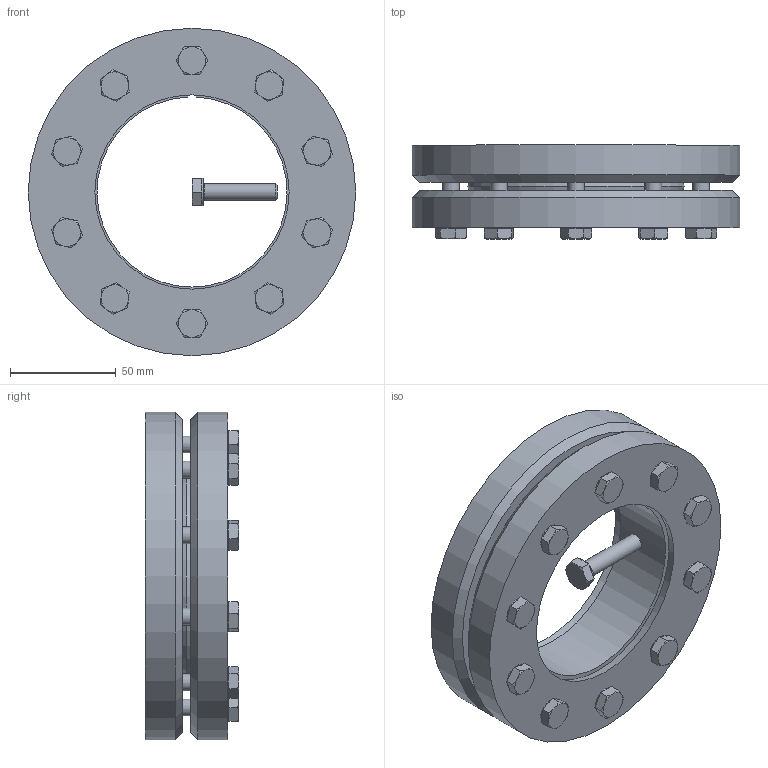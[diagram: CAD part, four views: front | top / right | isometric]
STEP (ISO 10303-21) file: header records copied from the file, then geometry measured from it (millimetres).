
FILE_DESCRIPTION( ( 'Unknown' ), '1' );
FILE_NAME( 'C:/Dokumente und Einstellungen/Sven/Desktop/homepage/cad - homepage/KBS19/KBS 19 - 90 x 155.stp', 'Unknown', ( 'Unknown' ), ( 'Unknown' ), 'XStep 1.0', 'Unknown', ' ' );
FILE_SCHEMA( ( 'automotive_design' ) );
Length unit declared in the file: millimetre
Products named in the file (3): Assem1; KBS 19 - 90 x 155; ISO 4017 - M8 x 35-N
Bounding box: 155 x 44.3 x 155 mm (x, y, z)
Volume: 864085.6 mm3; surface area: 179161 mm2
Topology: 13 solids, 13 shells, 361 faces, 844 edges, 520 vertices
Faces by surface type: plane 193, cone 89, cylinder 68, torus 11
Full cylindrical faces by diameter (mm): 8 x51, 13 x11, 155 x4
Entity records: 2388 total; most frequent: CARTESIAN_POINT 363, DIRECTION 354, ORIENTED_EDGE 268, AXIS2_PLACEMENT_3D 156, EDGE_LOOP 143, EDGE_CURVE 134, VERTEX_POINT 101, FACE_OUTER_BOUND 93
